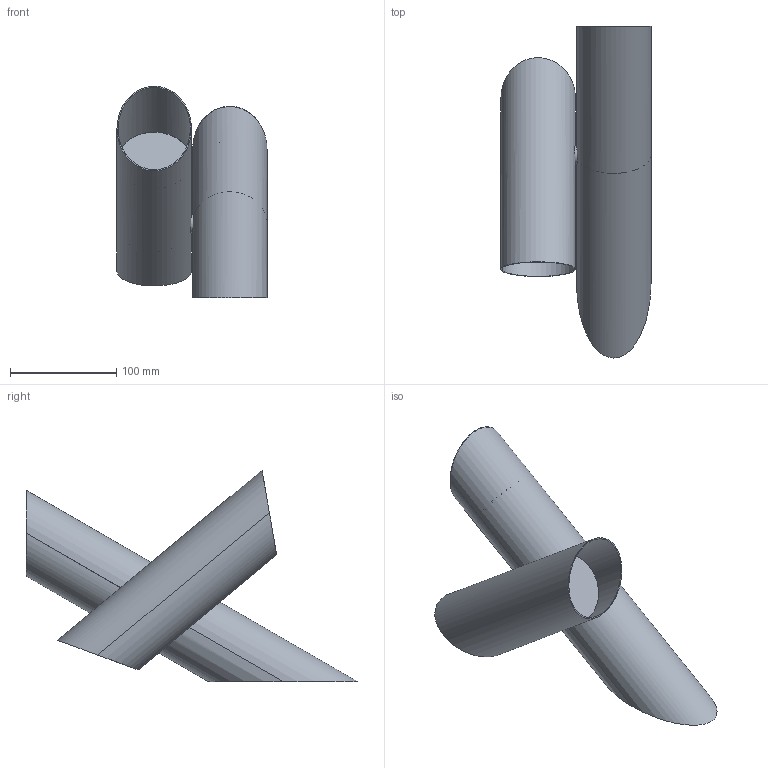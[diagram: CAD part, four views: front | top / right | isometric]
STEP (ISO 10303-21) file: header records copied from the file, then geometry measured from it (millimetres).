
FILE_DESCRIPTION (( 'STEP AP214' ), '1' );
FILE_NAME ('3D_TUBES_LARGE_WALL.STEP', '2018-03-02T10:27:23', ( 'Utente' ), ( '' ), 'SwSTEP 2.0', 'SolidWorks 2016', '' );
FILE_SCHEMA (( 'AUTOMOTIVE_DESIGN' ));
Length unit declared in the file: millimetre
Products named in the file (5): ranella 10.5x17x2 steab 5300_10_2 o elektrozubehor ROK_140MARTI-2^Assieme1; 010TWO000200_Tubo PareteMARTI-1^Assieme1; 010TWO000100_Tubo RotanteMARTI-2^Assieme1; Group4^Assieme1; 3D_TUBES_LARGE_WALL
Assembly tree (4 placements, depth 2):
  3D_TUBES_LARGE_WALL
    Group4^Assieme1
    010TWO000100_Tubo RotanteMARTI-2^Assieme1
    010TWO000200_Tubo PareteMARTI-1^Assieme1
    ranella 10.5x17x2 steab 5300_10_2 o elektrozubehor ROK_140MARTI-2^Assieme1
Bounding box: 141 x 311.76 x 198.8 mm (x, y, z)
Volume: 858025.9 mm3; surface area: 202943.2 mm2
Topology: 5 solids, 5 shells, 28 faces, 48 edges, 32 vertices
Faces by surface type: cylinder 16, plane 12
Entity records: 883 total; most frequent: CARTESIAN_POINT 151, DIRECTION 126, ORIENTED_EDGE 96, AXIS2_PLACEMENT_3D 55, EDGE_CURVE 48, EDGE_LOOP 32, VERTEX_POINT 32, ADVANCED_FACE 28
